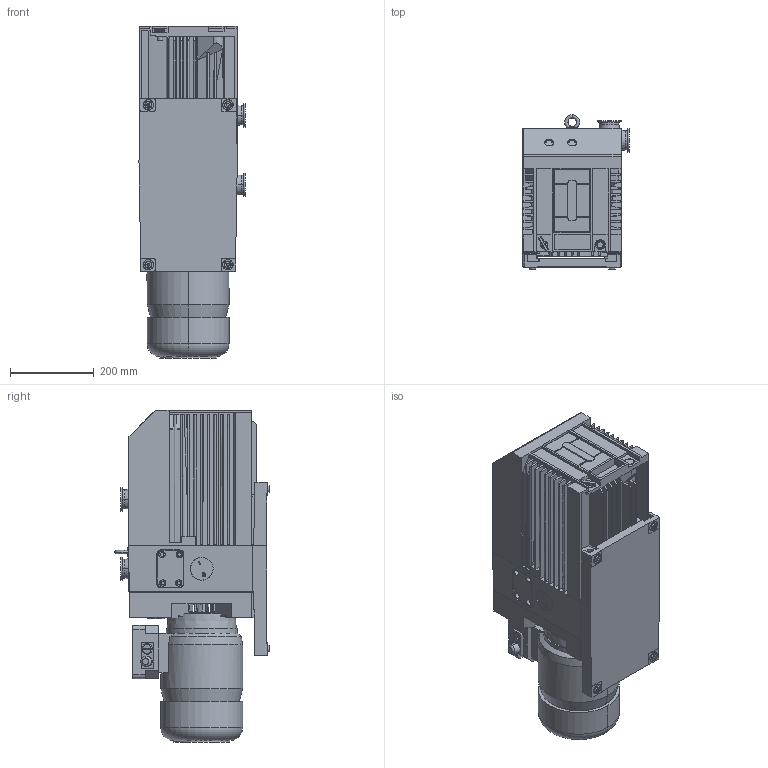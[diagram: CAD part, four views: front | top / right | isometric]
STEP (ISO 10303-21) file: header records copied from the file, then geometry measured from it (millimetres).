
FILE_DESCRIPTION((''),'2;1');
FILE_NAME('300591134_Y19_000_ASM','2016-03-09T',('56762'),('Copyright by Leybold GmbH'),'PRO/ENGINEER BY PARAMETRIC TECHNOLOGY CORPORATION, 2013320','PRO/ENGINEER BY PARAMETRIC TECHNOLOGY CORPORATION, 2013320','');
FILE_SCHEMA(('AUTOMOTIVE_DESIGN { 1 0 10303 214 1 1 1 1 }'));
Length unit declared in the file: millimetre
Products named in the file (21): 300590952_Y19_000; 300591010_Y19_000; 300590956_Y19_000; 300591125_Y19_000; 300591126_Y19_000; 300591127_Y19_000; 300591136_Y19_000; 300590949_Y19_000; 300590947_Y19_000; 300590946_Y19_000; 300591132_Y19_000_ASM; 300590938_Y19_000; 300590945_Y19_000; 300590936_Y19_000; 300590913_Y19_000; 300590922_Y19_000_ASM; 300590935_Y19_000; 300590934_Y19_000; 300590933_Y19_000; 300590931_Y19_000; 300591134_Y19_000_ASM
Assembly tree (29 placements, depth 3):
  300591134_Y19_000_ASM
    300591132_Y19_000_ASM
      300590952_Y19_000
      300591010_Y19_000
      300590956_Y19_000
      300591125_Y19_000
      300591126_Y19_000
      300591127_Y19_000
      300591136_Y19_000
      300590949_Y19_000
      300590947_Y19_000
      300590946_Y19_000
    300590938_Y19_000  x4
    300590945_Y19_000
    300590936_Y19_000
    300590922_Y19_000_ASM
      300590913_Y19_000
    300590935_Y19_000  x3
    300590934_Y19_000  x4
    300590933_Y19_000
    300590931_Y19_000  x2
Bounding box: 253.5 x 369.5 x 793.5 mm (x, y, z)
Volume: 41790041 mm3; surface area: 2439455.2 mm2
Topology: 28 solids, 31 shells, 1394 faces, 3552 edges, 2320 vertices
Faces by surface type: plane 865, cylinder 351, cone 123, bspline 34, torus 15, sphere 4, extrusion 2
Entity records: 38353 total; most frequent: CARTESIAN_POINT 8260, ORIENTED_EDGE 6002, DIRECTION 5940, EDGE_CURVE 3001, VECTOR 2142, LINE 2140, VERTEX_POINT 1965, AXIS2_PLACEMENT_3D 1899
